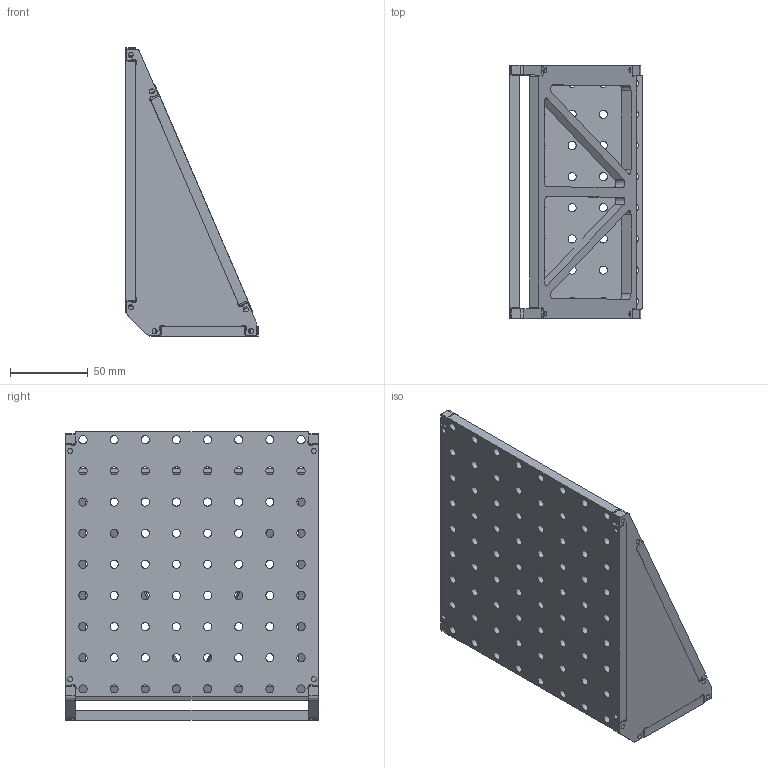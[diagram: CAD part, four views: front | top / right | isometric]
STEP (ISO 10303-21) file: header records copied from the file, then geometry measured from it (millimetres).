
FILE_DESCRIPTION(/* description */ (''),/* implementation_level */ '2;1');
FILE_NAME(/* name */ 'D:/Dropbox (Personal)/CBA/projects/machines/uSSM/cad/RCTBLK-90-025ALU_9-4-8.step',/* time_stamp */ '2018-10-31T10:40:10-04:00',/* author */ ('jakerobertread@gmail.com'),/* organization */ (''),/* preprocessor_version */ 'ST-DEVELOPER v17.2',/* originating_system */ 'Autodesk Translation Framework v7.6.0.251',/* authorisation */ '');
FILE_SCHEMA (('AUTOMOTIVE_DESIGN { 1 0 10303 214 3 1 1 }'));
Length unit declared in the file: millimetre
Products named in the file (1): RCTBLK-90-025ALU
Bounding box: 85 x 162.7 x 185 mm (x, y, z)
Volume: 372005.8 mm3; surface area: 155593.4 mm2
Topology: 5 solids, 5 shells, 346 faces, 1008 edges, 672 vertices
Faces by surface type: cylinder 204, plane 94, bspline 48
Full cylindrical faces by diameter (mm): 3.25 x24, 5.25 x104
Entity records: 13565 total; most frequent: CARTESIAN_POINT 3963, ORIENTED_EDGE 2016, DIRECTION 1822, EDGE_CURVE 1008, AXIS2_PLACEMENT_3D 707, VERTEX_POINT 672, EDGE_LOOP 610, LINE 408
